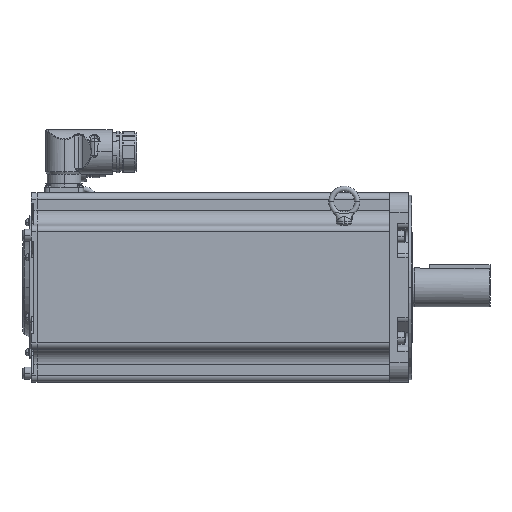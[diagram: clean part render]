
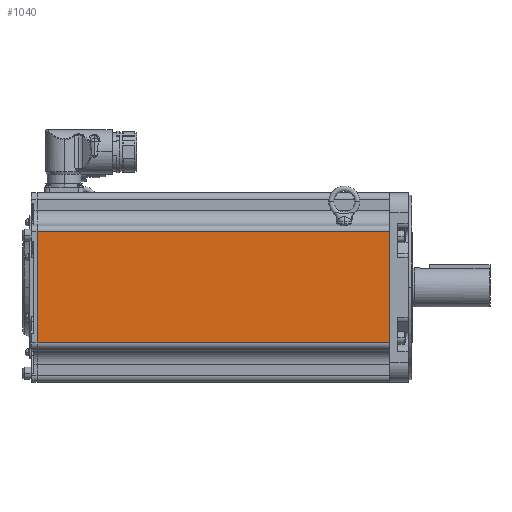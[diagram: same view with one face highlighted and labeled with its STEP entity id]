
A CAD part, top view. The second image highlights one B-rep face of the part: STEP entity #1040.
In plain terms, the highlighted planar face has unit normal (0, 0, 1) as drawn and (0, 0, -1) by its records, which use the part's own axes.
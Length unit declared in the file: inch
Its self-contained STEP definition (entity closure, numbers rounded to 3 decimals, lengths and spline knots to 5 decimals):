
#1040 = ADVANCED_FACE ( 'NONE', ( #18195 ), #18060, .F. ) ;
#5523 = EDGE_LOOP ( 'NONE', ( #10409, #10410, #10408, #10411 ) ) ;
#6004 = VERTEX_POINT ( 'NONE', #25626 ) ;
#6005 = VERTEX_POINT ( 'NONE', #25627 ) ;
#6026 = VERTEX_POINT ( 'NONE', #25648 ) ;
#6027 = VERTEX_POINT ( 'NONE', #25649 ) ;
#10408 = ORIENTED_EDGE ( 'NONE', *, *, #36559, .F. ) ;
#10409 = ORIENTED_EDGE ( 'NONE', *, *, #36584, .T. ) ;
#10410 = ORIENTED_EDGE ( 'NONE', *, *, #36601, .T. ) ;
#10411 = ORIENTED_EDGE ( 'NONE', *, *, #36602, .T. ) ;
#18060 = PLANE ( 'NONE',  #18197 ) ;
#18061 = CARTESIAN_POINT ( 'NONE',  ( -14.268, 2.39, -3.64 ) ) ;
#18062 = DIRECTION ( 'NONE',  ( 0., 0., 1. ) ) ;
#18063 = DIRECTION ( 'NONE',  ( 1., 0., 0. ) ) ;
#18195 = FACE_OUTER_BOUND ( 'NONE', #5523, .T. ) ;
#18197 = AXIS2_PLACEMENT_3D ( 'NONE', #18061, #18062, #18063 ) ;
#23719 = VECTOR ( 'NONE', #32380, 39.37008 ) ;
#23744 = VECTOR ( 'NONE', #32455, 39.37008 ) ;
#23760 = VECTOR ( 'NONE', #32506, 39.37008 ) ;
#23762 = VECTOR ( 'NONE', #32509, 39.37008 ) ;
#25626 = CARTESIAN_POINT ( 'NONE',  ( -14.268, 2.14, -3.64 ) ) ;
#25627 = CARTESIAN_POINT ( 'NONE',  ( -14.268, -2.14, -3.64 ) ) ;
#25648 = CARTESIAN_POINT ( 'NONE',  ( -0.7, -2.14, -3.64 ) ) ;
#25649 = CARTESIAN_POINT ( 'NONE',  ( -0.7, 2.14, -3.64 ) ) ;
#32378 = LINE ( 'NONE', #32379, #23719 ) ;
#32379 = CARTESIAN_POINT ( 'NONE',  ( -14.268, 2.39, -3.64 ) ) ;
#32380 = DIRECTION ( 'NONE',  ( 0., -1., 0. ) ) ;
#32453 = LINE ( 'NONE', #32454, #23744 ) ;
#32454 = CARTESIAN_POINT ( 'NONE',  ( -0.7, 2.39, -3.64 ) ) ;
#32455 = DIRECTION ( 'NONE',  ( 0., -1., 0. ) ) ;
#32504 = LINE ( 'NONE', #32505, #23760 ) ;
#32505 = CARTESIAN_POINT ( 'NONE',  ( -14.268, -2.14, -3.64 ) ) ;
#32506 = DIRECTION ( 'NONE',  ( -1., 0., 0. ) ) ;
#32507 = LINE ( 'NONE', #32508, #23762 ) ;
#32508 = CARTESIAN_POINT ( 'NONE',  ( -14.268, 2.14, -3.64 ) ) ;
#32509 = DIRECTION ( 'NONE',  ( 1., 0., 0. ) ) ;
#36559 = EDGE_CURVE ( 'NONE', #6004, #6005, #32378, .T. ) ;
#36584 = EDGE_CURVE ( 'NONE', #6027, #6026, #32453, .T. ) ;
#36601 = EDGE_CURVE ( 'NONE', #6026, #6005, #32504, .T. ) ;
#36602 = EDGE_CURVE ( 'NONE', #6004, #6027, #32507, .T. ) ;
